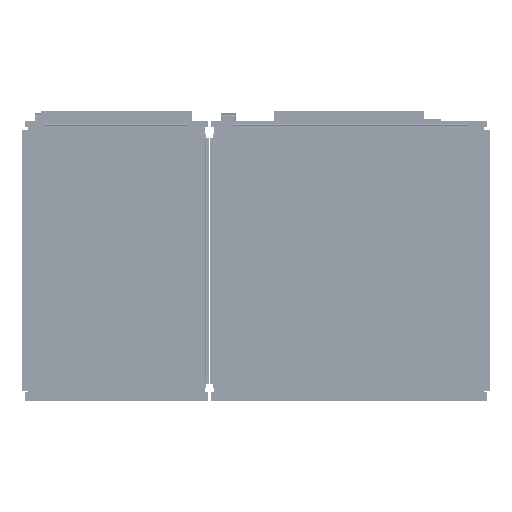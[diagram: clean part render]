
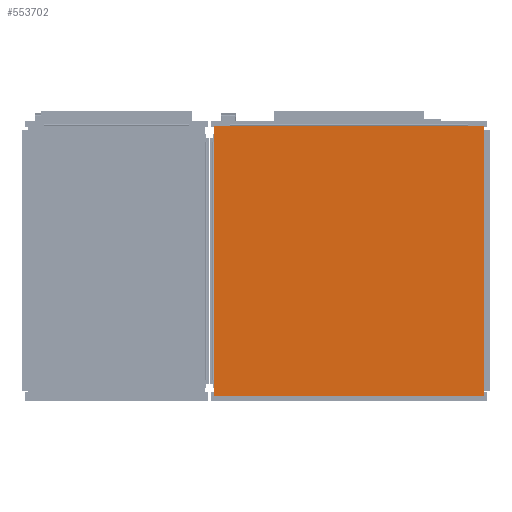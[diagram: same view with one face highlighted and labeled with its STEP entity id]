
A CAD part, front view. The second image highlights one B-rep face of the part: STEP entity #553702.
In plain terms, the highlighted planar face has unit normal (0, -1, 0) as drawn and (0, 0, -1) by its records, which use the part's own axes.
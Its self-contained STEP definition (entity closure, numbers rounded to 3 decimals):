
#553623=DIRECTION('',(0.,-1.,0.));
#553624=VECTOR('',#553623,580.);
#553625=CARTESIAN_POINT('',(-290.,290.,-50.));
#553626=LINE('',#553625,#553624);
#553627=DIRECTION('',(1.,0.,0.));
#553628=VECTOR('',#553627,580.);
#553629=CARTESIAN_POINT('',(-290.,-290.,-50.));
#553630=LINE('',#553629,#553628);
#553631=DIRECTION('',(0.,1.,0.));
#553632=VECTOR('',#553631,580.);
#553633=CARTESIAN_POINT('',(290.,-290.,-50.));
#553634=LINE('',#553633,#553632);
#553635=DIRECTION('',(-1.,0.,0.));
#553636=VECTOR('',#553635,580.);
#553637=CARTESIAN_POINT('',(290.,290.,-50.));
#553638=LINE('',#553637,#553636);
#553671=CARTESIAN_POINT('',(-290.,290.,-50.));
#553672=CARTESIAN_POINT('',(-290.,-290.,-50.));
#553673=VERTEX_POINT('',#553671);
#553674=VERTEX_POINT('',#553672);
#553675=CARTESIAN_POINT('',(290.,-290.,-50.));
#553676=VERTEX_POINT('',#553675);
#553677=CARTESIAN_POINT('',(290.,290.,-50.));
#553678=VERTEX_POINT('',#553677);
#553687=CARTESIAN_POINT('',(0.,0.,-50.));
#553688=DIRECTION('',(0.,0.,1.));
#553689=DIRECTION('',(1.,0.,0.));
#553690=AXIS2_PLACEMENT_3D('',#553687,#553688,#553689);
#553691=PLANE('',#553690);
#553693=ORIENTED_EDGE('',*,*,#553692,.T.);
#553695=ORIENTED_EDGE('',*,*,#553694,.T.);
#553697=ORIENTED_EDGE('',*,*,#553696,.T.);
#553699=ORIENTED_EDGE('',*,*,#553698,.T.);
#553700=EDGE_LOOP('',(#553693,#553695,#553697,#553699));
#553701=FACE_OUTER_BOUND('',#553700,.F.);
#553702=ADVANCED_FACE('',(#553701),#553691,.F.);
#553692=EDGE_CURVE('',#553673,#553674,#553626,.T.);
#553694=EDGE_CURVE('',#553674,#553676,#553630,.T.);
#553696=EDGE_CURVE('',#553676,#553678,#553634,.T.);
#553698=EDGE_CURVE('',#553678,#553673,#553638,.T.);
